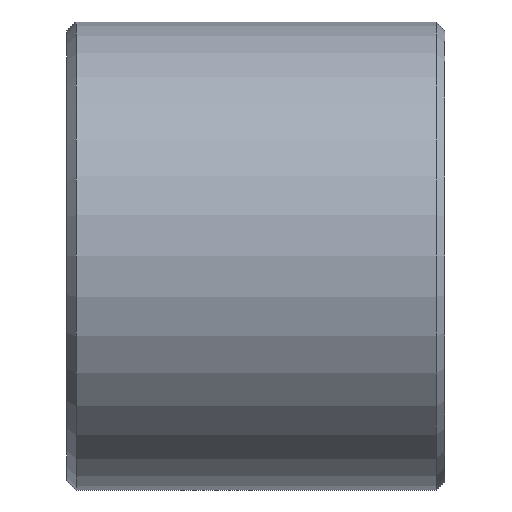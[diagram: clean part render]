
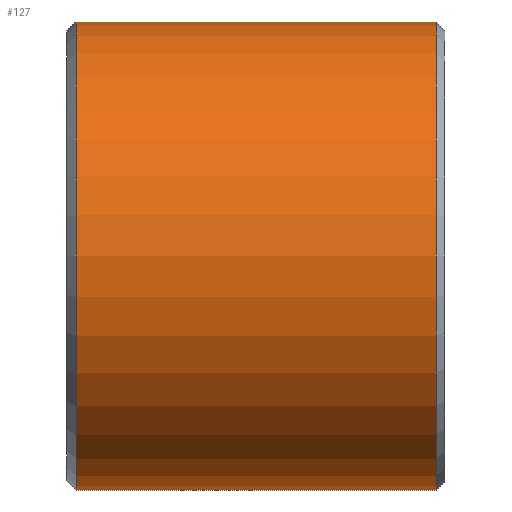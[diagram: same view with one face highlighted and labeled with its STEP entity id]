
A CAD part, front view. The second image highlights one B-rep face of the part: STEP entity #127.
In plain terms, the highlighted cylindrical face has radius 13 mm (diameter 26 mm), a full revolution.
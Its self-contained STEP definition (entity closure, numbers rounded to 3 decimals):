
#16=CYLINDRICAL_SURFACE('',#164,13.);
#25=FACE_OUTER_BOUND('',#34,.T.);
#34=EDGE_LOOP('',(#102,#103,#104,#105,#106,#107));
#42=LINE('',#241,#48);
#48=VECTOR('',#203,13.);
#55=CIRCLE('',#162,13.);
#56=CIRCLE('',#163,13.);
#57=CIRCLE('',#165,13.);
#58=CIRCLE('',#166,13.);
#65=VERTEX_POINT('',#231);
#66=VERTEX_POINT('',#233);
#67=VERTEX_POINT('',#237);
#68=VERTEX_POINT('',#238);
#78=EDGE_CURVE('',#65,#66,#55,.T.);
#79=EDGE_CURVE('',#66,#65,#56,.T.);
#80=EDGE_CURVE('',#67,#68,#57,.T.);
#81=EDGE_CURVE('',#68,#67,#58,.T.);
#82=EDGE_CURVE('',#68,#66,#42,.T.);
#102=ORIENTED_EDGE('',*,*,#80,.F.);
#103=ORIENTED_EDGE('',*,*,#81,.F.);
#104=ORIENTED_EDGE('',*,*,#82,.T.);
#105=ORIENTED_EDGE('',*,*,#78,.F.);
#106=ORIENTED_EDGE('',*,*,#79,.F.);
#107=ORIENTED_EDGE('',*,*,#82,.F.);
#127=ADVANCED_FACE('',(#25),#16,.T.);
#162=AXIS2_PLACEMENT_3D('',#234,#193,#194);
#163=AXIS2_PLACEMENT_3D('',#235,#195,#196);
#164=AXIS2_PLACEMENT_3D('',#236,#197,#198);
#165=AXIS2_PLACEMENT_3D('',#239,#199,#200);
#166=AXIS2_PLACEMENT_3D('',#240,#201,#202);
#193=DIRECTION('center_axis',(-1.,0.,0.));
#194=DIRECTION('ref_axis',(0.,-1.,0.));
#195=DIRECTION('center_axis',(-1.,0.,0.));
#196=DIRECTION('ref_axis',(0.,-1.,0.));
#197=DIRECTION('center_axis',(1.,0.,0.));
#198=DIRECTION('ref_axis',(0.,1.,0.));
#199=DIRECTION('center_axis',(1.,0.,0.));
#200=DIRECTION('ref_axis',(0.,-1.,0.));
#201=DIRECTION('center_axis',(1.,0.,0.));
#202=DIRECTION('ref_axis',(0.,-1.,0.));
#203=DIRECTION('',(-1.,0.,0.));
#231=CARTESIAN_POINT('',(-10.,13.,0.));
#233=CARTESIAN_POINT('',(-10.,-13.,0.));
#234=CARTESIAN_POINT('Origin',(-10.,0.,0.));
#235=CARTESIAN_POINT('Origin',(-10.,0.,0.));
#236=CARTESIAN_POINT('Origin',(0.,0.,0.));
#237=CARTESIAN_POINT('',(10.,13.,0.));
#238=CARTESIAN_POINT('',(10.,-13.,0.));
#239=CARTESIAN_POINT('Origin',(10.,0.,0.));
#240=CARTESIAN_POINT('Origin',(10.,0.,0.));
#241=CARTESIAN_POINT('',(0.,-13.,0.));
